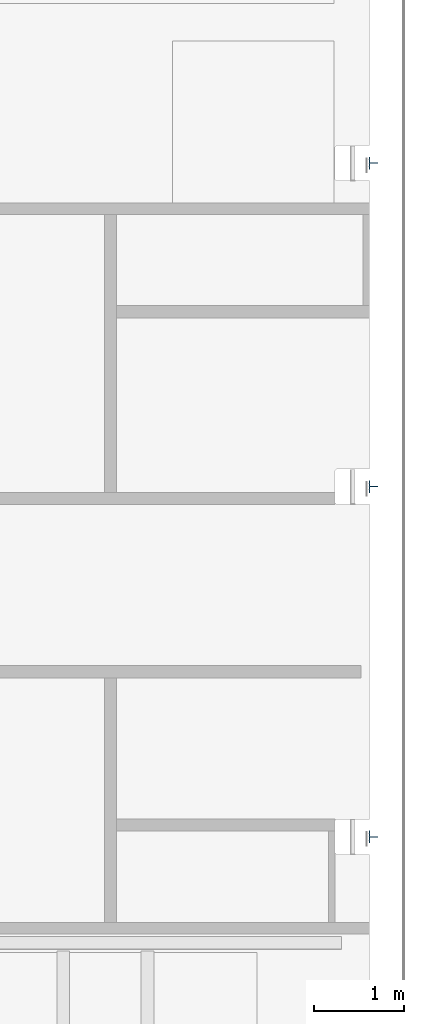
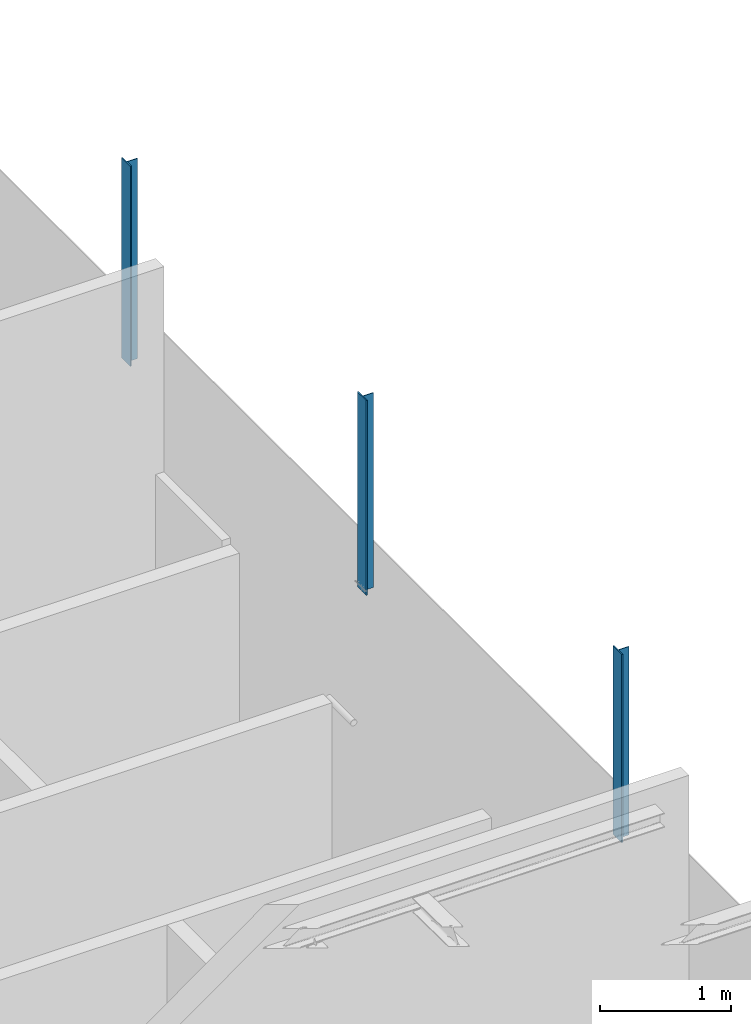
# One storey, part 129 of 186: 3 beams.
"""IFC4X3_ADD2 building model written with IfcOpenShell, lengths in millimetres."""

from ifc_helpers import new_model, si_unit, direction, frame, origin_with_axes, place, context, subcontext, project, spatial, polygons, element, save


model = new_model("IFC4X3_ADD2")

# Units and contexts
model_context = context("Model", 3, precision=1e-05, world=origin_with_axes(), true_north=direction((0.0, 1.0)))
body_context = subcontext(model_context, "Body", "Model", "MODEL_VIEW")
ifc_project = project(units=[si_unit("LENGTHUNIT", "METRE", prefix="MILLI"), si_unit("AREAUNIT", "SQUARE_METRE"), si_unit("VOLUMEUNIT", "CUBIC_METRE"), si_unit("PLANEANGLEUNIT", "RADIAN"), si_unit("TIMEUNIT", "SECOND"), si_unit("MASSUNIT", "GRAM")], contexts=[model_context])

# Site, building, storey
site_placement = place(None, origin_with_axes())
site = spatial("IfcSite", under=ifc_project, at=site_placement, Name="Site", CompositionType="ELEMENT")
building_placement = place(site_placement, origin_with_axes())
building = spatial("IfcBuilding", under=site, at=building_placement, Name="IFC Building Story")
storey_placement = place(building_placement, frame((0.0, 0.0, 4370.0), z_axis=(0.0, 0.0, 1.0), x_axis=(1.0, 0.0, 0.0)))
storey = spatial("IfcBuildingStorey", under=building, at=storey_placement, Name="ETAGE 10 (1)", Elevation=4370.0)

# Beams
beam_1_placement = place(storey_placement, frame((0.0, 0.0, -4370.0), z_axis=(0.0, 0.0, 1.0), x_axis=(1.0, 0.0, 0.0)))
element("IfcBeam", 1, at=beam_1_placement, inside=storey, Name="PS6", ObjectType="HALF_IPE270_100", context=body_context, shape_type="Tessellation", body=[
    polygons([(48594.2886362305, 4803.300610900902, 9980.0), (48594.2886362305, 4803.300610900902, 8220.0), (48504.48863604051, 4803.300610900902, 8220.0), (48504.48863604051, 4803.300610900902, 9980.0), (48504.48863604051, 4867.5006109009, 8220.0), (48504.48863604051, 4867.5006109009, 9980.0), (48494.2886362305, 4867.5006109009, 8220.0), (48494.2886362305, 4867.5006109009, 9980.0), (48494.2886362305, 4732.5006109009, 8220.0), (48494.2886362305, 4732.5006109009, 9980.0), (48504.48863604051, 4732.5006109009, 8220.0), (48504.48863604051, 4732.5006109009, 9980.0), (48504.48863604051, 4796.700610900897, 8220.0), (48504.48863604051, 4796.700610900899, 9980.0), (48594.2886362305, 4796.700610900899, 8220.0), (48594.2886362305, 4796.700610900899, 9980.0)], [[[1, 2, 3, 4]], [[4, 3, 5, 6]], [[6, 5, 7, 8]], [[8, 7, 9, 10]], [[10, 9, 11, 12]], [[12, 11, 13, 14]], [[14, 13, 15, 16]], [[16, 15, 2, 1]], [[4, 6, 8]], [[4, 8, 14]], [[14, 16, 1]], [[14, 1, 4]], [[8, 10, 14]], [[10, 12, 14]], [[13, 11, 9]], [[13, 9, 3]], [[3, 2, 15]], [[3, 15, 13]], [[9, 7, 3]], [[7, 5, 3]]]),
])
beam_2_placement = place(storey_placement, frame((0.0, 0.0, -4370.0), z_axis=(0.0, 0.0, 1.0), x_axis=(1.0, 0.0, 0.0)))
element("IfcBeam", 2, at=beam_2_placement, inside=storey, Name="PS6", ObjectType="HALF_IPE270_100", context=body_context, shape_type="Tessellation", body=[
    polygons([(48594.2886362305, 8713.3006109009, 9980.0), (48594.2886362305, 8713.3006109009, 8160.0), (48504.48863604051, 8713.3006109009, 8160.0), (48504.48863604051, 8713.3006109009, 9980.0), (48504.48863604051, 8777.5006109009, 8160.0), (48504.48863604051, 8777.5006109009, 9980.0), (48494.2886362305, 8777.5006109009, 8160.0), (48494.2886362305, 8777.5006109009, 9980.0), (48494.2886362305, 8642.5006109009, 8160.0), (48494.2886362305, 8642.5006109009, 9980.0), (48504.48863604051, 8642.5006109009, 8160.0), (48504.48863604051, 8642.5006109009, 9980.0), (48504.48863604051, 8706.700610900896, 8160.0), (48504.48863604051, 8706.7006109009, 9980.0), (48594.2886362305, 8706.700610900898, 8160.0), (48594.2886362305, 8706.700610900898, 9980.0)], [[[1, 2, 3, 4]], [[4, 3, 5, 6]], [[6, 5, 7, 8]], [[8, 7, 9, 10]], [[10, 9, 11, 12]], [[12, 11, 13, 14]], [[14, 13, 15, 16]], [[16, 15, 2, 1]], [[4, 6, 8]], [[4, 8, 14]], [[14, 16, 1]], [[14, 1, 4]], [[8, 10, 14]], [[10, 12, 14]], [[13, 11, 9]], [[13, 9, 3]], [[3, 2, 15]], [[3, 15, 13]], [[9, 7, 3]], [[7, 5, 3]]]),
])
beam_3_placement = place(storey_placement, frame((0.0, 0.0, -4370.0), z_axis=(0.0, 0.0, 1.0), x_axis=(1.0, 0.0, 0.0)))
element("IfcBeam", 3, at=beam_3_placement, inside=storey, Name="PS6", ObjectType="HALF_IPE270_100", context=body_context, shape_type="Tessellation", body=[
    polygons([(48594.2886362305, 12323.3006109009, 9980.0), (48594.2886362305, 12323.3006109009, 8110.0), (48504.48863604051, 12323.3006109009, 8110.0), (48504.48863604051, 12323.3006109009, 9980.0), (48504.48863604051, 12387.5006109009, 8110.0), (48504.48863604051, 12387.5006109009, 9980.0), (48494.2886362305, 12387.5006109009, 8110.0), (48494.2886362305, 12387.5006109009, 9980.0), (48494.2886362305, 12252.5006109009, 8110.0), (48494.2886362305, 12252.5006109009, 9980.0), (48504.48863604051, 12252.5006109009, 8110.0), (48504.48863604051, 12252.5006109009, 9980.0), (48504.48863604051, 12316.7006109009, 8110.0), (48504.48863604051, 12316.7006109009, 9980.0), (48594.2886362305, 12316.7006109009, 8110.0), (48594.2886362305, 12316.7006109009, 9980.0)], [[[1, 2, 3, 4]], [[4, 3, 5, 6]], [[6, 5, 7, 8]], [[8, 7, 9, 10]], [[10, 9, 11, 12]], [[12, 11, 13, 14]], [[14, 13, 15, 16]], [[16, 15, 2, 1]], [[4, 6, 8]], [[4, 8, 14]], [[14, 16, 1]], [[14, 1, 4]], [[8, 10, 14]], [[10, 12, 14]], [[13, 11, 9]], [[13, 9, 3]], [[3, 2, 15]], [[3, 15, 13]], [[9, 7, 3]], [[7, 5, 3]]]),
])

save(model, "model.ifc")
